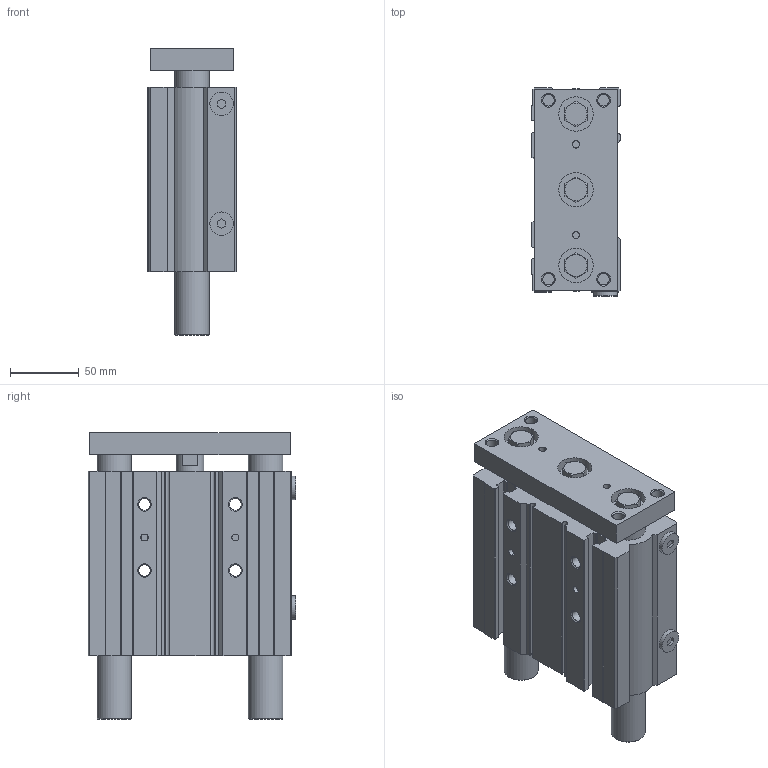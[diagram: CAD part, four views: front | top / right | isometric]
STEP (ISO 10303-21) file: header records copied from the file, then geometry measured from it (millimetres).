
FILE_DESCRIPTION( ( 'STEP AP214' ), '1' );
FILE_NAME( 'C:/Users/emc02044/Desktop/SGL SGM/SGM50X90-S.stp', '2026-07-24T01:44:44', ( 'License CC BY-ND 4.0' ), ( 'CADENAS' ), ' ', 'PARTsolutions', ' ' );
FILE_SCHEMA( ( 'AUTOMOTIVE_DESIGN { 1 0 10303 214 1 1 1 1 }' ) );
Length unit declared in the file: millimetre
Products named in the file (4): SGM50X90X0-S(); _SGM50x90-M(SG:Shaft cylinderM50X90X0-S:with magnet()dummy-0) 0; _SGM50x90-M(-0)-body; _SGM50x90-M(-0)-rod
Assembly tree (3 placements, depth 2):
  SGM50X90X0-S()
    _SGM50x90-M(SG:Shaft cylinderM50X90X0-S:with magnet()dummy-0) 0
    _SGM50x90-M(-0)-body
    _SGM50x90-M(-0)-rod
Bounding box: 64 x 151 x 208 mm (x, y, z)
Volume: 1105797.8 mm3; surface area: 219161.8 mm2
Topology: 2 solids, 5 shells, 351 faces, 852 edges, 549 vertices
Faces by surface type: plane 179, cylinder 114, cone 58
Full cylindrical faces by diameter (mm): 5 x6, 8.376 x12, 8.7 x4, 11.445 x4, 14 x4, 17 x2, 20 x2, 25 x7, 30 x2, 32 x2, 46.8 x1, 50 x2
Entity records: 12874 total; most frequent: CARTESIAN_POINT 1992, DIRECTION 1684, ORIENTED_EDGE 1542, EDGE_CURVE 771, AXIS2_PLACEMENT_3D 648, VERTEX_POINT 537, EDGE_LOOP 478, FACE_OUTER_BOUND 399
